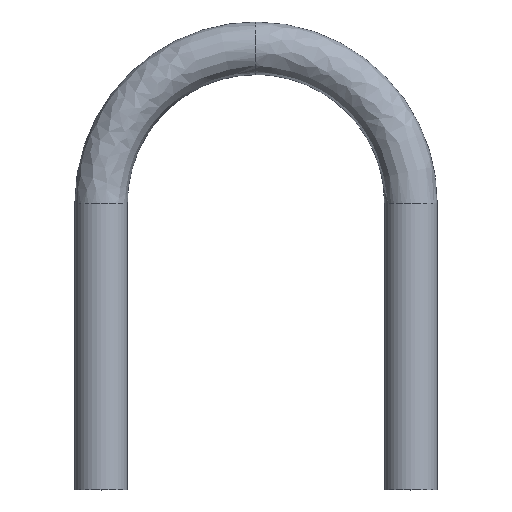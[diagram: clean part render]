
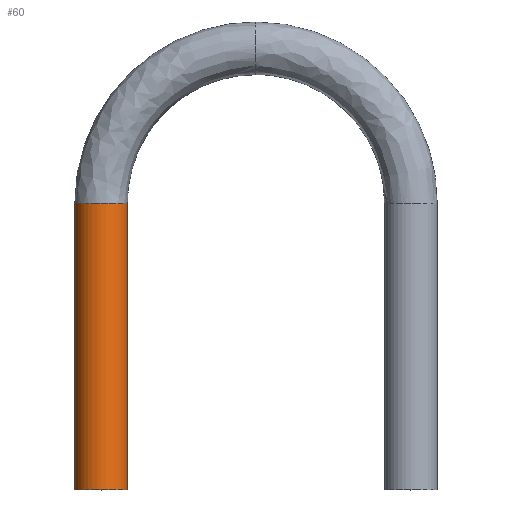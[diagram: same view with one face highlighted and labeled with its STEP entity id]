
A CAD part, top view. The second image highlights one B-rep face of the part: STEP entity #60.
In plain terms, the highlighted cylindrical face has radius 6.35 mm (diameter 12.7 mm), a partial arc.
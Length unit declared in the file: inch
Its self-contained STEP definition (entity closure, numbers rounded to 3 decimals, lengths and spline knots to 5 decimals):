
#60=ADVANCED_FACE('',(#112),#113,.T.);
#112=FACE_OUTER_BOUND('',#309,.T.);
#113=CYLINDRICAL_SURFACE('',#310,0.25);
#309=EDGE_LOOP('',(#481,#482,#483,#484));
#310=AXIS2_PLACEMENT_3D('',#485,#486,#487);
#481=ORIENTED_EDGE('',*,*,#546,.F.);
#482=ORIENTED_EDGE('',*,*,#547,.T.);
#483=ORIENTED_EDGE('',*,*,#548,.F.);
#484=ORIENTED_EDGE('',*,*,#544,.T.);
#485=CARTESIAN_POINT('',(0.0,0.0,0.0));
#486=DIRECTION('',(-0.0,-1.0,-0.0));
#487=DIRECTION('',(-1.0,0.0,0.0));
#544=EDGE_CURVE('',#574,#577,#579,.T.);
#546=EDGE_CURVE('',#581,#577,#582,.T.);
#547=EDGE_CURVE('',#581,#583,#584,.T.);
#548=EDGE_CURVE('',#574,#583,#585,.T.);
#574=VERTEX_POINT('',#623);
#577=VERTEX_POINT('',#631);
#579=CIRCLE('',#638,0.25);
#581=VERTEX_POINT('',#640);
#582=LINE('',#641,#642);
#583=VERTEX_POINT('',#643);
#584=CIRCLE('',#644,0.25);
#585=LINE('',#645,#646);
#623=CARTESIAN_POINT('',(0.25,2.7185,0.));
#631=CARTESIAN_POINT('',(-0.25,2.7185,0.0));
#638=AXIS2_PLACEMENT_3D('',#675,#676,#677);
#640=CARTESIAN_POINT('',(-0.25,0.0,0.0));
#641=CARTESIAN_POINT('',(-0.25,0.0,0.));
#642=VECTOR('',#678,1.0);
#643=CARTESIAN_POINT('',(0.25,0.0,0.));
#644=AXIS2_PLACEMENT_3D('',#679,#680,#681);
#645=CARTESIAN_POINT('',(0.25,0.0,0.));
#646=VECTOR('',#682,1.0);
#675=CARTESIAN_POINT('',(0.0,2.7185,0.0));
#676=DIRECTION('',(-0.0,-1.0,-0.0));
#677=DIRECTION('',(-1.0,0.0,0.0));
#678=DIRECTION('',(0.0,1.0,0.0));
#679=CARTESIAN_POINT('',(0.0,0.0,0.0));
#680=DIRECTION('',(0.0,1.0,0.0));
#681=DIRECTION('',(-1.0,0.0,0.0));
#682=DIRECTION('',(-0.0,-1.0,-0.0));
